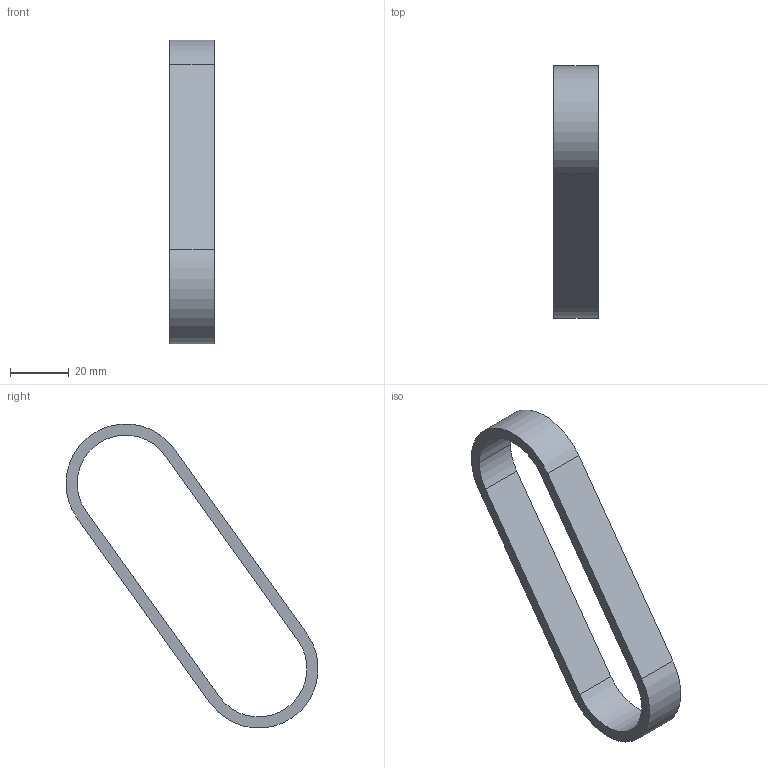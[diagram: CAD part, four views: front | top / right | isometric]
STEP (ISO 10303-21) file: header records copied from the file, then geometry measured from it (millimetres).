
FILE_DESCRIPTION (( 'STEP AP214' ), '1' );
FILE_NAME ('55T HTD Belt_1-WCP-0165.step', '2025-12-23T15:51:52', ( '' ), ( '' ), 'SwSTEP 2.0', 'SolidWorks 2026', '' );
FILE_SCHEMA (( 'AUTOMOTIVE_DESIGN' ));
Length unit declared in the file: inch
Products named in the file (1): 55T HTD Belt_1-WCP-0165
Bounding box: 15 x 85.7 x 103.35 mm (x, y, z)
Volume: 15448.8 mm3; surface area: 10169.4 mm2
Topology: 1 solids, 1 shells, 12 faces, 30 edges, 20 vertices
Faces by surface type: cylinder 6, plane 6
Entity records: 397 total; most frequent: DIRECTION 68, CARTESIAN_POINT 63, ORIENTED_EDGE 60, EDGE_CURVE 30, AXIS2_PLACEMENT_3D 25, VERTEX_POINT 20, LINE 18, VECTOR 18
